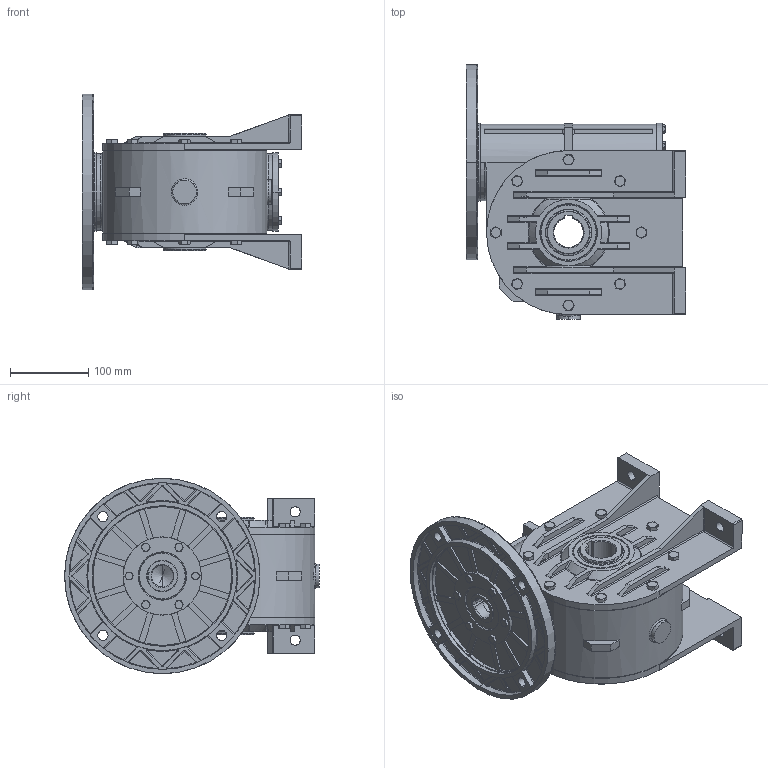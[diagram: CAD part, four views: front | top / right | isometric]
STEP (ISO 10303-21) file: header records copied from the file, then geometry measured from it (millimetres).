
FILE_DESCRIPTION (( 'STEP AP203' ), '1' );
FILE_NAME ('3F002335.STEP', '2012-07-24T05:53:35', ( 'Amministratore' ), ( 'SerteK sas' ), 'SwSTEP 2.0', 'SolidWorks 2009', '' );
FILE_SCHEMA (( 'CONFIG_CONTROL_DESIGN' ));
Length unit declared in the file: millimetre
Products named in the file (1): 3F002335
Bounding box: 281 x 326 x 250 mm (x, y, z)
Surface area: 811510.9 mm2 (no closed solid volume)
Topology: 0 solids, 46 shells, 2756 faces, 6883 edges, 4220 vertices
Faces by surface type: cylinder 904, plane 802, bspline 716, cone 334
Entity records: 113990 total; most frequent: CARTESIAN_POINT 51848, ORIENTED_EDGE 13508, DIRECTION 12626, EDGE_CURVE 6770, AXIS2_PLACEMENT_3D 5054, VERTEX_POINT 4220, CIRCLE 3013, EDGE_LOOP 2966
